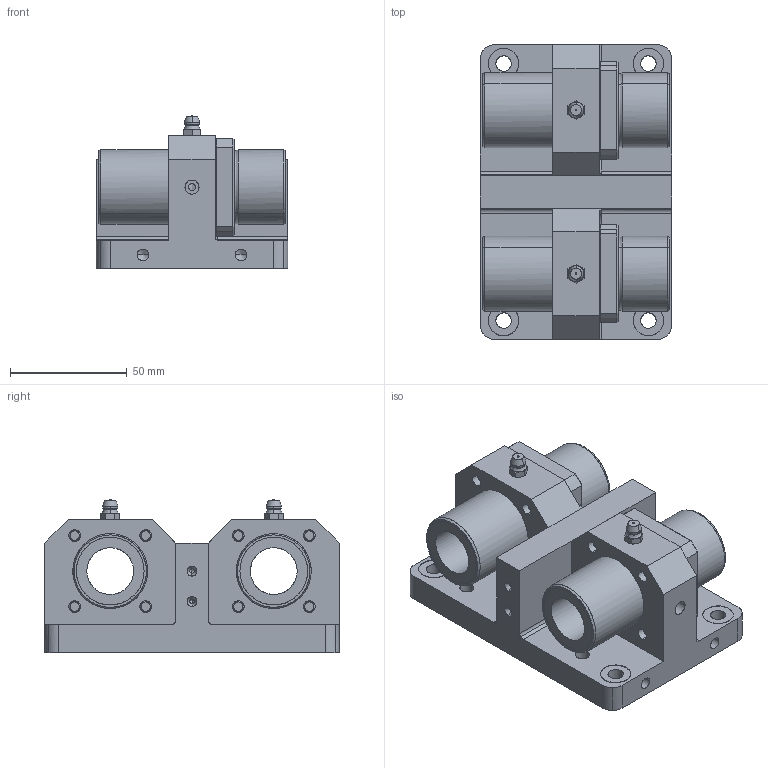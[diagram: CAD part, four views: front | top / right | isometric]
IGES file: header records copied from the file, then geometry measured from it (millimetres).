
Global section: file name: No Iges File Name specified; native system: AutoDesk Inventor R10; preprocessor: AutoDesk Inventor Iges Exporter R10; author: No Author specified; organization: No Organization specified; date: 20101227.095208; units: millimetre
Bounding box: 82 x 126 x 65.8 mm (x, y, z)
Surface area: 86691 mm2 (no closed solid volume)
Topology: 0 solids, 0 shells, 559 faces, 3630 edges, 3588 vertices
Faces by surface type: bspline 559
